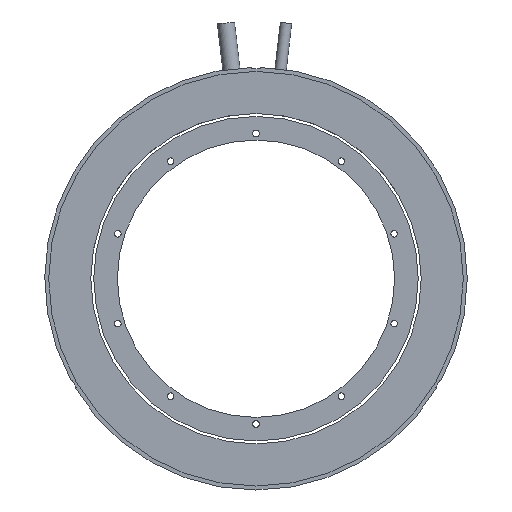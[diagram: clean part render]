
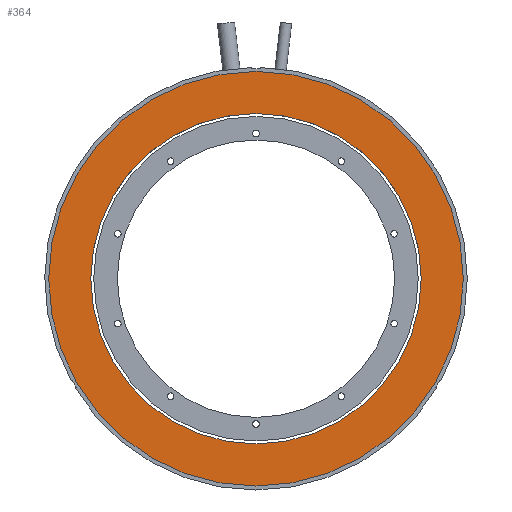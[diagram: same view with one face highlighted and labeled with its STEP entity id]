
A CAD part, front view. The second image highlights one B-rep face of the part: STEP entity #364.
In plain terms, the highlighted planar face has unit normal (0, -1, 0) as drawn and (0, 0, -1) by its records, which use the part's own axes.
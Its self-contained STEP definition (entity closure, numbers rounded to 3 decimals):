
#54 = EDGE_CURVE ( 'NONE', #1312, #174, #585, .T. ) ;
#92 = DIRECTION ( 'NONE',  ( 1., 0., 0. ) ) ;
#174 = VERTEX_POINT ( 'NONE', #1811 ) ;
#211 = CIRCLE ( 'NONE', #1534, 78.5 ) ;
#214 = DIRECTION ( 'NONE',  ( 1., 0., 0. ) ) ;
#222 = ORIENTED_EDGE ( 'NONE', *, *, #1364, .F. ) ;
#298 = DIRECTION ( 'NONE',  ( 0., 0., 1. ) ) ;
#303 = CARTESIAN_POINT ( 'NONE',  ( 78.5, 0., 0. ) ) ;
#334 = CARTESIAN_POINT ( 'NONE',  ( -62.55, 0., 0. ) ) ;
#364 = ADVANCED_FACE ( 'NONE', ( #2242, #1901 ), #998, .T. ) ;
#384 = CARTESIAN_POINT ( 'NONE',  ( 0., 0., 0. ) ) ;
#460 = VERTEX_POINT ( 'NONE', #1129 ) ;
#585 = CIRCLE ( 'NONE', #1850, 62.55 ) ;
#634 = DIRECTION ( 'NONE',  ( 1., 0., 0. ) ) ;
#688 = ORIENTED_EDGE ( 'NONE', *, *, #1491, .F. ) ;
#732 = AXIS2_PLACEMENT_3D ( 'NONE', #978, #298, #92 ) ;
#788 = ORIENTED_EDGE ( 'NONE', *, *, #54, .T. ) ;
#978 = CARTESIAN_POINT ( 'NONE',  ( 0., 0., 0. ) ) ;
#980 = EDGE_CURVE ( 'NONE', #174, #1312, #1598, .T. ) ;
#998 = PLANE ( 'NONE',  #1764 ) ;
#1018 = DIRECTION ( 'NONE',  ( 0., 0., -1. ) ) ;
#1107 = DIRECTION ( 'NONE',  ( 1., 0., 0. ) ) ;
#1129 = CARTESIAN_POINT ( 'NONE',  ( -78.5, 0., 0. ) ) ;
#1155 = AXIS2_PLACEMENT_3D ( 'NONE', #1336, #1699, #634 ) ;
#1312 = VERTEX_POINT ( 'NONE', #334 ) ;
#1336 = CARTESIAN_POINT ( 'NONE',  ( 0., 0., 0. ) ) ;
#1364 = EDGE_CURVE ( 'NONE', #460, #2184, #211, .T. ) ;
#1465 = EDGE_LOOP ( 'NONE', ( #1749, #788 ) ) ;
#1491 = EDGE_CURVE ( 'NONE', #2184, #460, #2142, .T. ) ;
#1523 = EDGE_LOOP ( 'NONE', ( #688, #222 ) ) ;
#1534 = AXIS2_PLACEMENT_3D ( 'NONE', #384, #1980, #214 ) ;
#1598 = CIRCLE ( 'NONE', #1155, 62.55 ) ;
#1653 = CARTESIAN_POINT ( 'NONE',  ( 0., 0., 0. ) ) ;
#1699 = DIRECTION ( 'NONE',  ( 0., 0., 1. ) ) ;
#1719 = CARTESIAN_POINT ( 'NONE',  ( 78.5, 0., 0. ) ) ;
#1749 = ORIENTED_EDGE ( 'NONE', *, *, #980, .T. ) ;
#1764 = AXIS2_PLACEMENT_3D ( 'NONE', #303, #1018, #2053 ) ;
#1797 = DIRECTION ( 'NONE',  ( 0., 0., 1. ) ) ;
#1811 = CARTESIAN_POINT ( 'NONE',  ( 62.55, 0., 0. ) ) ;
#1850 = AXIS2_PLACEMENT_3D ( 'NONE', #1653, #1797, #1107 ) ;
#1901 = FACE_OUTER_BOUND ( 'NONE', #1523, .T. ) ;
#1980 = DIRECTION ( 'NONE',  ( 0., 0., 1. ) ) ;
#2053 = DIRECTION ( 'NONE',  ( 0., -1., 0. ) ) ;
#2142 = CIRCLE ( 'NONE', #732, 78.5 ) ;
#2184 = VERTEX_POINT ( 'NONE', #1719 ) ;
#2242 = FACE_BOUND ( 'NONE', #1465, .T. ) ;
